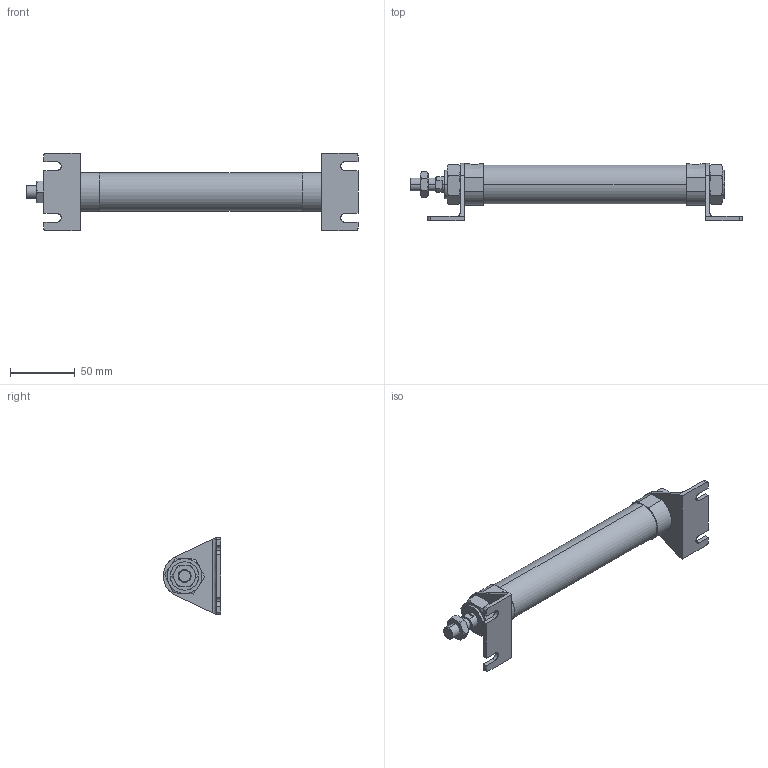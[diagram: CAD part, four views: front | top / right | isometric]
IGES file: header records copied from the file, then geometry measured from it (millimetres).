
Start section: SolidWorks IGES file using analytic representation for surfaces
Global section: file name: C:\Users\Toshiba\Desktop\J#2-25-125-L.IGS; native system: SolidWorks 2014; preprocessor: SolidWorks 2014; author: Toshiba; date: 160310.085507; units: millimetre
Bounding box: 257.2 x 44.5 x 60 mm (x, y, z)
Surface area: 41861 mm2 (no closed solid volume)
Topology: 0 solids, 0 shells, 171 faces, 2800 edges, 2796 vertices
Faces by surface type: bspline 111, revolution 60
